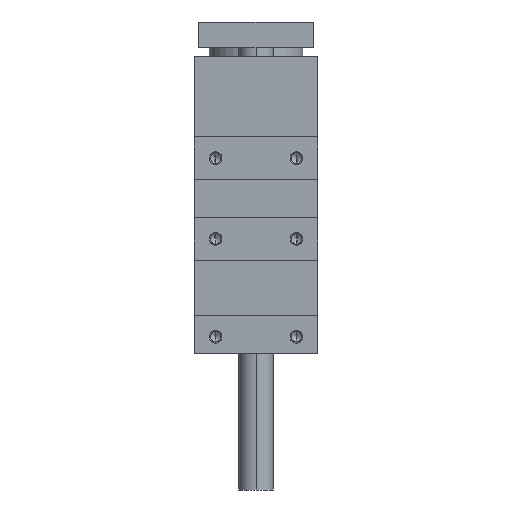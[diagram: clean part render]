
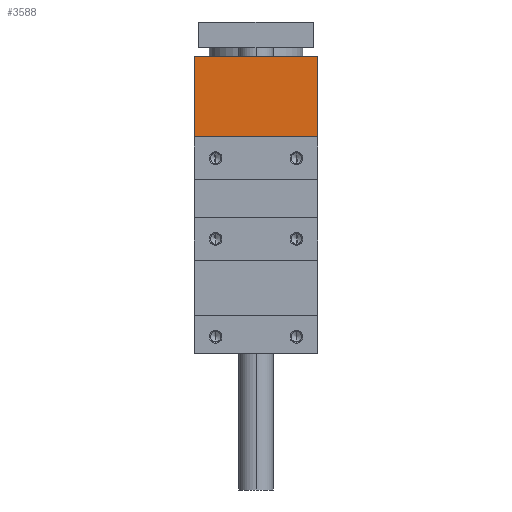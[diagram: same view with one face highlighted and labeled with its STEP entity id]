
A CAD part, left-side view. The second image highlights one B-rep face of the part: STEP entity #3588.
In plain terms, the highlighted planar face has unit normal (-1, 0, 0).
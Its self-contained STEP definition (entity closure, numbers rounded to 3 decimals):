
#94 = VECTOR ( 'NONE', #9540, 1000. ) ;
#217 = EDGE_CURVE ( 'NONE', #655, #2040, #6321, .T. ) ;
#242 = DIRECTION ( 'NONE',  ( 0., 0., -1. ) ) ;
#598 = DIRECTION ( 'NONE',  ( 0., 1., 0. ) ) ;
#655 = VERTEX_POINT ( 'NONE', #3970 ) ;
#1072 = CARTESIAN_POINT ( 'NONE',  ( -57.2, 58., 59. ) ) ;
#1243 = ORIENTED_EDGE ( 'NONE', *, *, #9446, .F. ) ;
#1411 = EDGE_CURVE ( 'NONE', #8310, #6900, #2328, .T. ) ;
#2040 = VERTEX_POINT ( 'NONE', #4428 ) ;
#2328 = LINE ( 'NONE', #7400, #3274 ) ;
#2836 = ORIENTED_EDGE ( 'NONE', *, *, #8713, .T. ) ;
#3274 = VECTOR ( 'NONE', #242, 1000. ) ;
#3309 = LINE ( 'NONE', #7143, #4523 ) ;
#3588 = ADVANCED_FACE ( 'NONE', ( #6253 ), #3815, .F. ) ;
#3815 = PLANE ( 'NONE',  #10181 ) ;
#3926 = EDGE_LOOP ( 'NONE', ( #9956, #2836, #8435, #1243 ) ) ;
#3970 = CARTESIAN_POINT ( 'NONE',  ( -57.2, -29., 59. ) ) ;
#4202 = CARTESIAN_POINT ( 'NONE',  ( -57.2, 29., 59. ) ) ;
#4428 = CARTESIAN_POINT ( 'NONE',  ( -57.2, -29., 21. ) ) ;
#4523 = VECTOR ( 'NONE', #8078, 1000. ) ;
#4647 = CARTESIAN_POINT ( 'NONE',  ( -57.2, 58., 21. ) ) ;
#6253 = FACE_OUTER_BOUND ( 'NONE', #3926, .T. ) ;
#6321 = LINE ( 'NONE', #10219, #94 ) ;
#6900 = VERTEX_POINT ( 'NONE', #9508 ) ;
#7143 = CARTESIAN_POINT ( 'NONE',  ( -57.2, 58., 21. ) ) ;
#7271 = VECTOR ( 'NONE', #7553, 1000. ) ;
#7400 = CARTESIAN_POINT ( 'NONE',  ( -57.2, 29., 0. ) ) ;
#7553 = DIRECTION ( 'NONE',  ( 0., -1., 0. ) ) ;
#7804 = DIRECTION ( 'NONE',  ( 1., 0., 0. ) ) ;
#8078 = DIRECTION ( 'NONE',  ( 0., -1., 0. ) ) ;
#8187 = LINE ( 'NONE', #1072, #7271 ) ;
#8310 = VERTEX_POINT ( 'NONE', #4202 ) ;
#8435 = ORIENTED_EDGE ( 'NONE', *, *, #217, .F. ) ;
#8713 = EDGE_CURVE ( 'NONE', #6900, #2040, #3309, .T. ) ;
#9446 = EDGE_CURVE ( 'NONE', #8310, #655, #8187, .T. ) ;
#9508 = CARTESIAN_POINT ( 'NONE',  ( -57.2, 29., 21. ) ) ;
#9540 = DIRECTION ( 'NONE',  ( 0., 0., -1. ) ) ;
#9956 = ORIENTED_EDGE ( 'NONE', *, *, #1411, .T. ) ;
#10181 = AXIS2_PLACEMENT_3D ( 'NONE', #4647, #7804, #598 ) ;
#10219 = CARTESIAN_POINT ( 'NONE',  ( -57.2, -29., 0. ) ) ;
